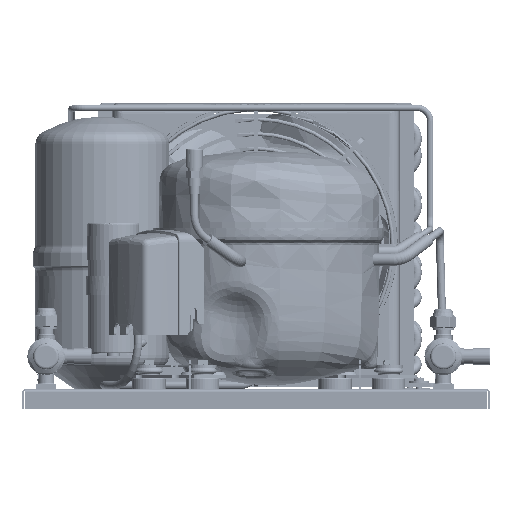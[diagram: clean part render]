
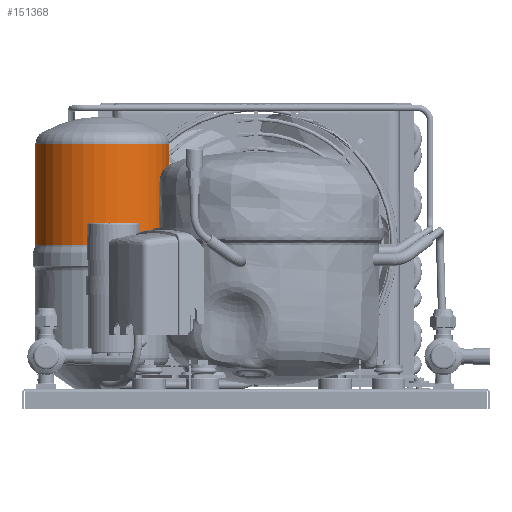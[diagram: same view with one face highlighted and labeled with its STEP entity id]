
A CAD part, front view. The second image highlights one B-rep face of the part: STEP entity #151368.
In plain terms, the highlighted cylindrical face has radius 50 mm (diameter 100 mm), a full revolution.
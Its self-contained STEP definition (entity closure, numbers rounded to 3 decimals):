
#2668=B_SPLINE_CURVE_WITH_KNOTS('',3,(#267330,#267331,#267332,#267333,#267334,
#267335,#267336,#267337,#267338,#267339,#267340,#267341,#267342,#267343,
#267344,#267345,#267346,#267347,#267348,#267349,#267350,#267351,#267352,
#267353,#267354,#267355,#267356,#267357,#267358),.UNSPECIFIED.,.T.,.F.,
(1,1,1,1,1,1,1,1,1,1,1,1,1,1,1,1,1,1,1,1,1,1,1,1,1,1,1,1,1,1,1,1,1),(-0.128,
-0.066,-0.033,0.,0.059,0.091,0.122,
0.184,0.215,0.247,0.309,0.34,
0.372,0.434,0.497,0.5,
0.53,0.559,0.591,0.622,
0.684,0.715,0.747,0.778,
0.809,0.84,0.872,0.934,
0.967,1.,1.059,1.091,1.122),.UNSPECIFIED.);
#13553=CYLINDRICAL_SURFACE('',#214836,50.);
#15205=CIRCLE('',#214837,50.);
#15206=CIRCLE('',#214838,50.);
#23154=ORIENTED_EDGE('',*,*,#68465,.T.);
#23155=ORIENTED_EDGE('',*,*,#68466,.T.);
#23156=ORIENTED_EDGE('',*,*,#68467,.T.);
#68465=EDGE_CURVE('',#91403,#91403,#15205,.F.);
#68466=EDGE_CURVE('',#91404,#91404,#2668,.T.);
#68467=EDGE_CURVE('',#91405,#91405,#15206,.T.);
#91403=VERTEX_POINT('',#267329);
#91404=VERTEX_POINT('',#267359);
#91405=VERTEX_POINT('',#267361);
#123327=EDGE_LOOP('',(#23154));
#123328=EDGE_LOOP('',(#23155));
#123329=EDGE_LOOP('',(#23156));
#135037=FACE_BOUND('',#123327,.T.);
#135038=FACE_BOUND('',#123328,.T.);
#135039=FACE_BOUND('',#123329,.T.);
#151368=ADVANCED_FACE('',(#135037,#135038,#135039),#13553,.T.);
#214836=AXIS2_PLACEMENT_3D('',#267327,#230158,#230159);
#214837=AXIS2_PLACEMENT_3D('',#267328,#230160,#230161);
#214838=AXIS2_PLACEMENT_3D('',#267360,#230162,#230163);
#230158=DIRECTION('',(0.,0.,-1.));
#230159=DIRECTION('',(-1.,0.,0.));
#230160=DIRECTION('',(0.,0.,-1.));
#230161=DIRECTION('',(-1.,0.,0.));
#230162=DIRECTION('',(0.,0.,-1.));
#230163=DIRECTION('',(-1.,0.,0.));
#267327=CARTESIAN_POINT('',(0.,0.,-11.));
#267328=CARTESIAN_POINT('',(0.,0.,107.849));
#267329=CARTESIAN_POINT('',(-50.,0.,107.849));
#267330=CARTESIAN_POINT('',(-49.98,1.706,178.875));
#267331=CARTESIAN_POINT('',(-50.018,-0.456,179.116));
#267332=CARTESIAN_POINT('',(-49.95,-2.604,178.671));
#267333=CARTESIAN_POINT('',(-49.8,-4.535,177.616));
#267334=CARTESIAN_POINT('',(-49.621,-6.235,176.171));
#267335=CARTESIAN_POINT('',(-49.438,-7.497,174.214));
#267336=CARTESIAN_POINT('',(-49.325,-8.192,171.93));
#267337=CARTESIAN_POINT('',(-49.28,-8.45,169.606));
#267338=CARTESIAN_POINT('',(-49.349,-8.059,167.251));
#267339=CARTESIAN_POINT('',(-49.502,-7.059,165.111));
#267340=CARTESIAN_POINT('',(-49.681,-5.722,163.275));
#267341=CARTESIAN_POINT('',(-49.912,-3.443,161.549));
#267342=CARTESIAN_POINT('',(-49.998,-1.227,161.013));
#267343=CARTESIAN_POINT('',(-50.001,0.471,160.994));
#267344=CARTESIAN_POINT('',(-49.984,1.543,161.103));
#267345=CARTESIAN_POINT('',(-49.913,3.082,161.587));
#267346=CARTESIAN_POINT('',(-49.8,4.538,162.384));
#267347=CARTESIAN_POINT('',(-49.621,6.236,163.83));
#267348=CARTESIAN_POINT('',(-49.438,7.495,165.787));
#267349=CARTESIAN_POINT('',(-49.325,8.193,168.074));
#267350=CARTESIAN_POINT('',(-49.292,8.384,169.817));
#267351=CARTESIAN_POINT('',(-49.313,8.259,171.577));
#267352=CARTESIAN_POINT('',(-49.389,7.803,173.293));
#267353=CARTESIAN_POINT('',(-49.503,7.054,174.896));
#267354=CARTESIAN_POINT('',(-49.682,5.713,176.735));
#267355=CARTESIAN_POINT('',(-49.869,3.878,178.115));
#267356=CARTESIAN_POINT('',(-49.98,1.706,178.875));
#267357=CARTESIAN_POINT('',(-50.018,-0.456,179.116));
#267358=CARTESIAN_POINT('',(-49.95,-2.604,178.671));
#267359=CARTESIAN_POINT('',(-50.,0.,179.));
#267360=CARTESIAN_POINT('',(0.,0.,183.409));
#267361=CARTESIAN_POINT('',(-50.,0.,183.409));
